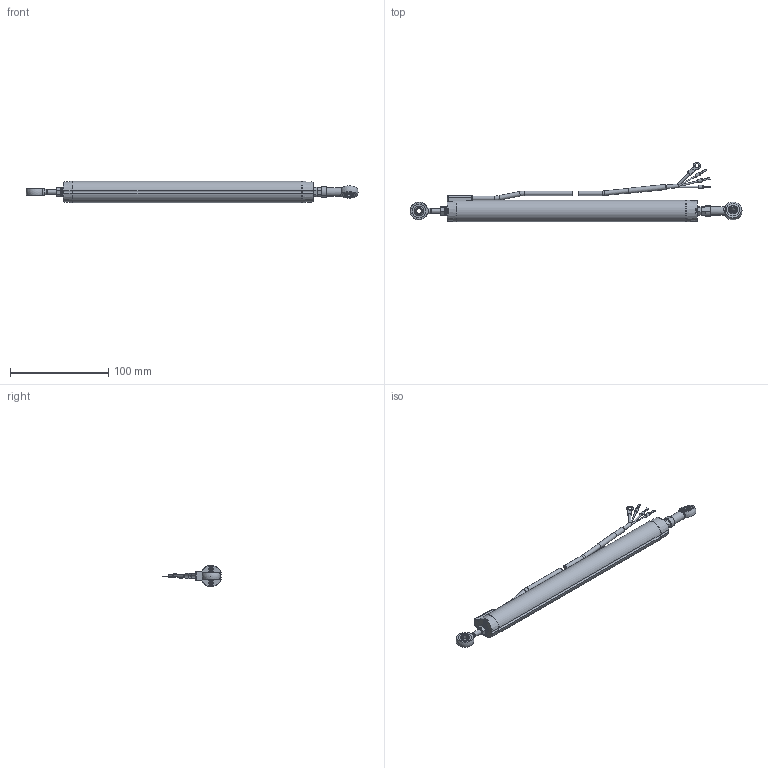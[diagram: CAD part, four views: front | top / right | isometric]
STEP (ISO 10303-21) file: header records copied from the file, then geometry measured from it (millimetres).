
FILE_DESCRIPTION(/* description */ (''),/* implementation_level */ '2;1');
FILE_NAME(/* name */ 'C:\Users\TSC_Brendan\Dropbox\Products\Linear Potentiometer\LPPS-22 Linear Potentiometer\LPPS-22 CAD Drawings\3D\LPPS-22-200\LPPS-22-200\LPPS-22-200 SW.stp',/* time_stamp */ '2021-10-19T14:30:28-04:00',/* author */ ('TSC_Brendan'),/* organization */ (''),/* preprocessor_version */ 'ST-DEVELOPER v18.1',/* originating_system */ 'Autodesk Inventor 2022',/* authorisation */ '');
FILE_SCHEMA (('AUTOMOTIVE_DESIGN { 1 0 10303 214 3 1 1 }'));
Length unit declared in the file: inch
Products named in the file (4): LPPS-22-200 SW; LPPS-22-200 Cable_Simplify; LPPS-22-200 Housing_Simplify; LPPS-22-200 Shaft_Simplify
Assembly tree (3 placements, depth 2):
  LPPS-22-200 SW
    LPPS-22-200 Cable_Simplify
    LPPS-22-200 Housing_Simplify
    LPPS-22-200 Shaft_Simplify
Bounding box: 337.63 x 60.43 x 21.96 mm (x, y, z)
Volume: 56525.3 mm3; surface area: 52966.6 mm2
Topology: 30 solids, 30 shells, 757 faces, 2739 edges, 2048 vertices
Faces by surface type: cylinder 349, plane 202, cone 142, bspline 28, torus 22, sphere 14
Full cylindrical faces by diameter (mm): 1.27 x3, 1.48 x96, 1.575 x2, 2 x92, 2.286 x5, 3.175 x5, 3.81 x1, 3.881 x1, 4 x4, 4.134 x1, 4.191 x1, 4.342 x12, 4.572 x5, 4.826 x3, 4.851 x1, 4.953 x1, 5 x15, 5.004 x2, 5.08 x1, 5.207 x1, 5.3 x1, 6.35 x2, 9.144 x1, 10 x1, 12.675 x4, 12.7 x1, 15.875 x2, 17.78 x1
Entity records: 45074 total; most frequent: CARTESIAN_POINT 23734, ORIENTED_EDGE 5444, DIRECTION 3368, EDGE_CURVE 2722, VERTEX_POINT 2048, AXIS2_PLACEMENT_3D 1373, EDGE_LOOP 826, STYLED_ITEM 787
